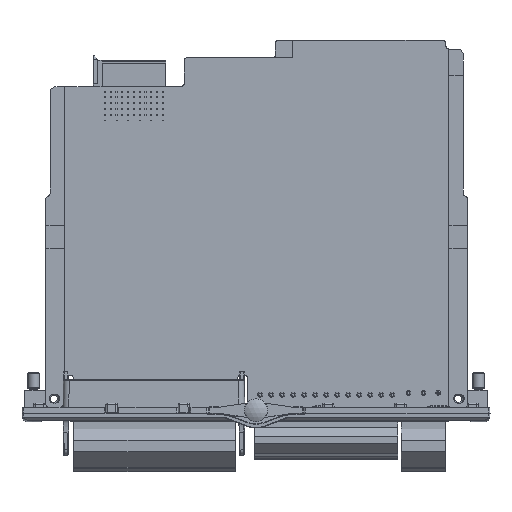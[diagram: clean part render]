
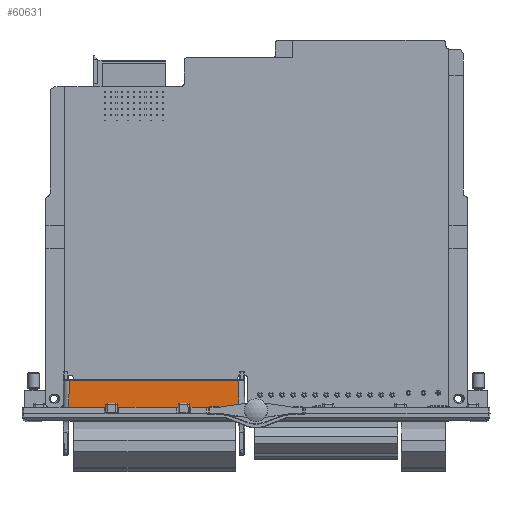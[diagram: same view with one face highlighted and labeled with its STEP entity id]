
A CAD part, front view. The second image highlights one B-rep face of the part: STEP entity #60631.
In plain terms, the highlighted planar face has unit normal (0, -1, 0.018).
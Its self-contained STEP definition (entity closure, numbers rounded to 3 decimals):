
#531=B_SPLINE_CURVE_WITH_KNOTS('',3,(#95450,#95451,#95452,#95453,#95454,
#95455,#95456,#95457),.UNSPECIFIED.,.F.,.F.,(4,2,2,4),(-0.031,
-0.024,-0.015,0.),.UNSPECIFIED.);
#532=B_SPLINE_CURVE_WITH_KNOTS('',3,(#95460,#95461,#95462,#95463,#95464,
#95465,#95466,#95467),.UNSPECIFIED.,.F.,.F.,(4,2,2,4),(-0.027,
-0.016,-0.007,0.),.UNSPECIFIED.);
#3229=LINE('',#94617,#9077);
#3321=LINE('',#95353,#9169);
#3331=LINE('',#95443,#9179);
#3332=LINE('',#95445,#9180);
#3333=LINE('',#95448,#9181);
#3334=LINE('',#95459,#9182);
#9077=VECTOR('',#73174,10.);
#9169=VECTOR('',#73650,10.);
#9179=VECTOR('',#73702,10.);
#9180=VECTOR('',#73705,10.);
#9181=VECTOR('',#73706,10.);
#9182=VECTOR('',#73707,10.);
#14035=FACE_BOUND('',#18476,.T.);
#14974=FACE_OUTER_BOUND('',#18475,.T.);
#18475=EDGE_LOOP('',(#41203,#41204,#41205,#41206));
#18476=EDGE_LOOP('',(#41207,#41208,#41209,#41210));
#24935=VERTEX_POINT('',#94611);
#24936=VERTEX_POINT('',#94615);
#25040=VERTEX_POINT('',#95343);
#25042=VERTEX_POINT('',#95349);
#25053=VERTEX_POINT('',#95446);
#25054=VERTEX_POINT('',#95447);
#25055=VERTEX_POINT('',#95449);
#25056=VERTEX_POINT('',#95458);
#30876=EDGE_CURVE('',#24936,#24935,#3229,.T.);
#31080=EDGE_CURVE('',#25040,#25042,#3321,.T.);
#31102=EDGE_CURVE('',#25042,#24936,#3331,.T.);
#31103=EDGE_CURVE('',#24935,#25040,#3332,.T.);
#31104=EDGE_CURVE('',#25053,#25054,#3333,.T.);
#31105=EDGE_CURVE('',#25055,#25054,#531,.T.);
#31106=EDGE_CURVE('',#25056,#25055,#3334,.T.);
#31107=EDGE_CURVE('',#25053,#25056,#532,.T.);
#41203=ORIENTED_EDGE('',*,*,#30876,.F.);
#41204=ORIENTED_EDGE('',*,*,#31102,.F.);
#41205=ORIENTED_EDGE('',*,*,#31080,.F.);
#41206=ORIENTED_EDGE('',*,*,#31103,.F.);
#41207=ORIENTED_EDGE('',*,*,#31104,.T.);
#41208=ORIENTED_EDGE('',*,*,#31105,.F.);
#41209=ORIENTED_EDGE('',*,*,#31106,.F.);
#41210=ORIENTED_EDGE('',*,*,#31107,.F.);
#54651=PLANE('',#65140);
#60631=ADVANCED_FACE('',(#14974,#14035),#54651,.T.);
#65140=AXIS2_PLACEMENT_3D('',#95444,#73703,#73704);
#73174=DIRECTION('',(1.,0.,0.));
#73650=DIRECTION('',(-1.,0.,0.));
#73702=DIRECTION('',(0.017,0.017,1.));
#73703=DIRECTION('center_axis',(0.,-1.,
0.017));
#73704=DIRECTION('ref_axis',(1.,0.,0.));
#73705=DIRECTION('',(0.017,-0.017,-1.));
#73706=DIRECTION('',(1.,0.,0.));
#73707=DIRECTION('',(1.,0.,0.));
#94611=CARTESIAN_POINT('',(-6.323,-6.996,9.303));
#94615=CARTESIAN_POINT('',(-64.897,-6.996,9.303));
#94617=CARTESIAN_POINT('',(-19.868,-6.996,9.303));
#95343=CARTESIAN_POINT('',(-6.112,-7.208,-2.803));
#95349=CARTESIAN_POINT('',(-65.108,-7.208,-2.803));
#95353=CARTESIAN_POINT('',(-19.407,-7.208,-2.803));
#95443=CARTESIAN_POINT('',(-65.085,-7.185,-1.486));
#95444=CARTESIAN_POINT('Origin',(-4.126,-7.194,-2.));
#95445=CARTESIAN_POINT('',(-6.128,-7.191,-1.871));
#95446=CARTESIAN_POINT('',(-17.321,-7.194,-2.));
#95447=CARTESIAN_POINT('',(-10.679,-7.194,-2.));
#95448=CARTESIAN_POINT('',(-67.094,-7.194,-2.));
#95449=CARTESIAN_POINT('',(-10.957,-7.194,-2.035));
#95450=CARTESIAN_POINT('Ctrl Pts',(-10.957,-7.194,
-2.035));
#95451=CARTESIAN_POINT('Ctrl Pts',(-10.936,-7.194,-2.035));
#95452=CARTESIAN_POINT('Ctrl Pts',(-10.916,-7.194,
-2.033));
#95453=CARTESIAN_POINT('Ctrl Pts',(-10.87,-7.194,
-2.027));
#95454=CARTESIAN_POINT('Ctrl Pts',(-10.844,-7.194,
-2.022));
#95455=CARTESIAN_POINT('Ctrl Pts',(-10.774,-7.194,-2.008));
#95456=CARTESIAN_POINT('Ctrl Pts',(-10.728,-7.194,
-2.));
#95457=CARTESIAN_POINT('Ctrl Pts',(-10.679,-7.194,
-2.));
#95458=CARTESIAN_POINT('',(-17.043,-7.194,-2.035));
#95459=CARTESIAN_POINT('',(-47.625,-7.194,-2.035));
#95460=CARTESIAN_POINT('Ctrl Pts',(-17.321,-7.194,
-2.));
#95461=CARTESIAN_POINT('Ctrl Pts',(-17.279,-7.194,
-2.));
#95462=CARTESIAN_POINT('Ctrl Pts',(-17.239,-7.194,-2.006));
#95463=CARTESIAN_POINT('Ctrl Pts',(-17.17,-7.194,
-2.019));
#95464=CARTESIAN_POINT('Ctrl Pts',(-17.141,-7.194,
-2.025));
#95465=CARTESIAN_POINT('Ctrl Pts',(-17.088,-7.194,
-2.033));
#95466=CARTESIAN_POINT('Ctrl Pts',(-17.066,-7.194,
-2.035));
#95467=CARTESIAN_POINT('Ctrl Pts',(-17.043,-7.194,
-2.035));
